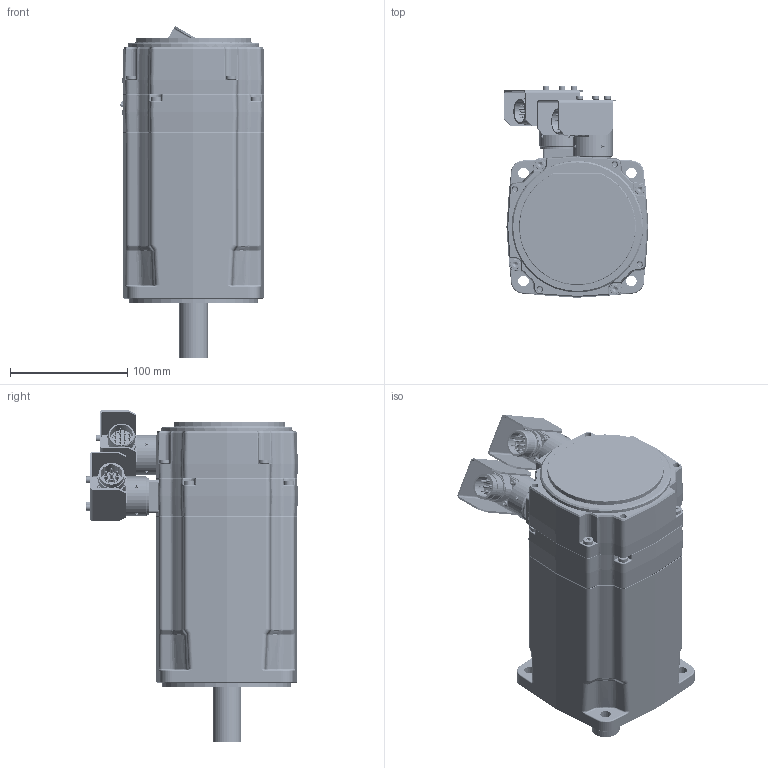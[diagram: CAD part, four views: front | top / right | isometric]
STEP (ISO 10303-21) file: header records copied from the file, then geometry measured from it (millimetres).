
FILE_DESCRIPTION((''),'2;1');
FILE_NAME('EY630EAR7010_ASM','2016-11-14T',('pf73167'),(''),'PRO/ENGINEER BY PARAMETRIC TECHNOLOGY CORPORATION, 2009400','PRO/ENGINEER BY PARAMETRIC TECHNOLOGY CORPORATION, 2009400','');
FILE_SCHEMA(('CONFIG_CONTROL_DESIGN'));
Length unit declared in the file: millimetre
Products named in the file (42): 344187P0020; 5116P1315; 301026P0030; 1150P0412; 344185P0002; 344186R0002_ASM; 5116P1319; 1645P0018; 1711P0019; 344229R3000_ASM; 344183P0005; 344184R3008_ASM; 1143P0515; 5320P0028; 5340P0002; 1613P0034; 1613P0035; 282280P0012; 220005P1002; 344509P0001; 1643P0104; 1143P0405; 344191P0021; 1143P0510; 345359P0002; 5340P0124; 5340P0125; 1150P0204; 345359P0001; 1170P0042; 220132P1010_0001; 220132P1010_0002; 220132P0111; 220132P0120; 220132P1010_ASM; 345359P0003; 1150P0305; 345359R1010_ASM; 220132P1020; 220132P0112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
Assembly tree (103 placements, depth 4):
  EY630EAR7010_ASM
    344187P0020
    5116P1315
    301026P0030
    1150P0412  x3
    344186R0002_ASM
      344185P0002
    5116P1319
    1645P0018  x2
    1711P0019
    344184R3008_ASM
      344229R3000_ASM
      344183P0005
    1143P0515  x4
    5320P0028
    5340P0002  x2
    1613P0034
    1613P0035
    282280P0012
    220005P1002
    344509P0001
    1643P0104  x3
    1143P0405  x3
    344191P0021
    1143P0510  x4
    345359R1010_ASM
      345359P0002
      5340P0124
      5340P0125
      1150P0204  x8
      345359P0001
      1170P0042  x4
      220132P1010_ASM
        220132P1010_0001
        220132P1010_0002
        220132P0111  x4
        220132P0120  x3
      345359P0003
      1150P0305  x3
    345359R1020_ASM
      345359P0002
      5340P0124
      5340P0125
      1150P0204  x8
      345359P0001
      1170P0042  x4
      220132P1020
      220132P0112  x12
      345359P0003
      1150P0305  x3
Bounding box: 123.48 x 180.2 x 282.84 mm (x, y, z)
Volume: 1138170.1 mm3; surface area: 412450.2 mm2
Topology: 102 solids, 103 shells, 5488 faces, 12920 edges, 7844 vertices
Faces by surface type: plane 1977, cylinder 1590, cone 999, bspline 602, torus 289, sphere 31
Entity records: 140518 total; most frequent: CARTESIAN_POINT 51121, ORIENTED_EDGE 18940, DIRECTION 17611, EDGE_CURVE 9470, AXIS2_PLACEMENT_3D 6373, VERTEX_POINT 5901, VECTOR 4865, LINE 4865
